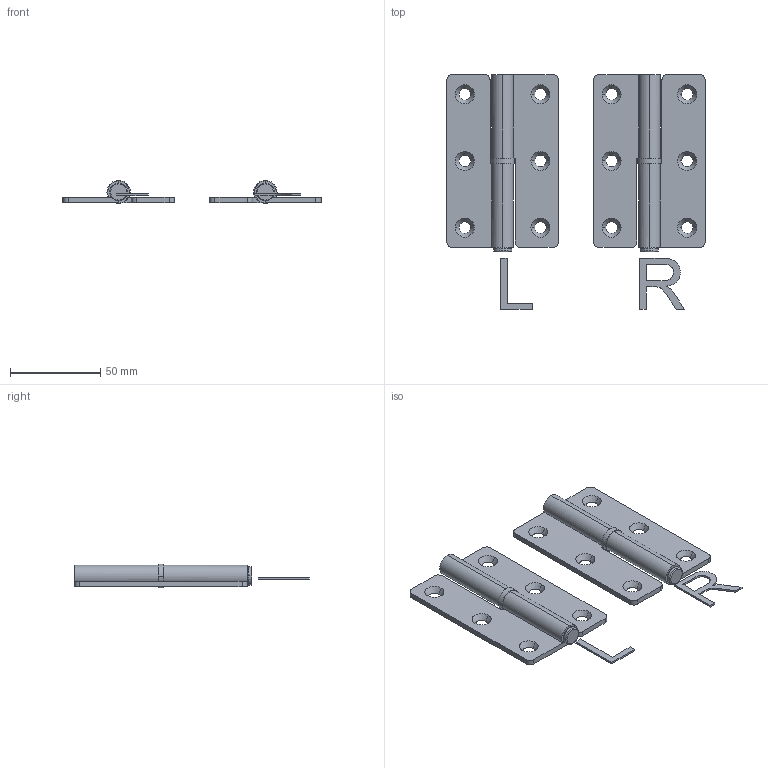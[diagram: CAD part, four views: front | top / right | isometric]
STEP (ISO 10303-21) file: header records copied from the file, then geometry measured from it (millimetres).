
FILE_DESCRIPTION(/* description */ (''),/* implementation_level */ '2;1');
FILE_NAME(/* name */ 'JL305-1',/* time_stamp */ '2025-03-19T09:35:23+08:00',/* author */ (''),/* organization */ (''),/* preprocessor_version */ 'ST-DEVELOPER v19.2',/* originating_system */ 'Rhino 8.5',/* authorisation */ '');
FILE_SCHEMA (('CONFIG_CONTROL_DESIGN'));
Length unit declared in the file: millimetre
Products named in the file (1): Document
Bounding box: 143.48 x 130.47 x 13 mm (x, y, z)
Volume: 49232.5 mm3; surface area: 38926.5 mm2
Topology: 10 solids, 10 shells, 144 faces, 358 edges, 236 vertices
Faces by surface type: plane 63, cylinder 44, bspline 37
Entity records: 5153 total; most frequent: CARTESIAN_POINT 2029, ORIENTED_EDGE 716, DIRECTION 399, EDGE_CURVE 358, AXIS2_PLACEMENT_3D 253, VERTEX_POINT 236, EDGE_LOOP 176, B_SPLINE_CURVE_WITH_KNOTS 162
